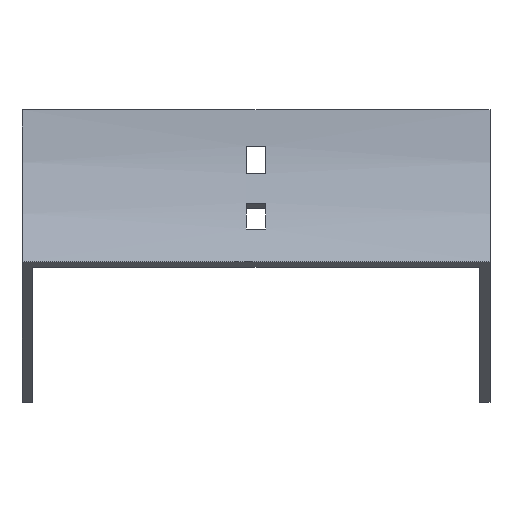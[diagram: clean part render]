
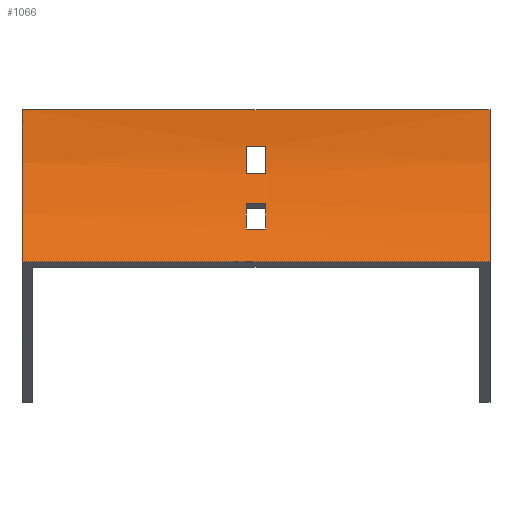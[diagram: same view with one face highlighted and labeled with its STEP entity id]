
A CAD part, front view. The second image highlights one B-rep face of the part: STEP entity #1066.
In plain terms, the highlighted cylindrical face has radius 100 mm (diameter 200 mm), a partial arc.
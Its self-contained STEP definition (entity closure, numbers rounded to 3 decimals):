
#50 = CARTESIAN_POINT ( 'NONE',  ( 3.25, -2.23, -21. ) ) ;
#57 = CIRCLE ( 'NONE', #160, 100. ) ;
#62 = DIRECTION ( 'NONE',  ( 1., 0., 0. ) ) ;
#99 = VECTOR ( 'NONE', #1032, 1000. ) ;
#103 = ORIENTED_EDGE ( 'NONE', *, *, #1078, .F. ) ;
#115 = CARTESIAN_POINT ( 'NONE',  ( 77., -4.829, -30.699 ) ) ;
#122 = DIRECTION ( 'NONE',  ( -1., 0., 0. ) ) ;
#149 = CARTESIAN_POINT ( 'NONE',  ( 77., 0., 0. ) ) ;
#160 = AXIS2_PLACEMENT_3D ( 'NONE', #303, #1627, #570 ) ;
#193 = CARTESIAN_POINT ( 'NONE',  ( 77., -0.723, -12. ) ) ;
#197 = DIRECTION ( 'NONE',  ( -1., 0., 0. ) ) ;
#219 = DIRECTION ( 'NONE',  ( -1., 0., 0. ) ) ;
#234 = DIRECTION ( 'NONE',  ( -1., 0., 0. ) ) ;
#285 = CIRCLE ( 'NONE', #1477, 100. ) ;
#303 = CARTESIAN_POINT ( 'NONE',  ( 3.25, -100., 0. ) ) ;
#332 = ORIENTED_EDGE ( 'NONE', *, *, #1461, .T. ) ;
#338 = DIRECTION ( 'NONE',  ( 0., 0., 1. ) ) ;
#354 = DIRECTION ( 'NONE',  ( 0., 0., 1. ) ) ;
#357 = CARTESIAN_POINT ( 'NONE',  ( 77., 0., 0. ) ) ;
#365 = VECTOR ( 'NONE', #563, 1000. ) ;
#375 = CARTESIAN_POINT ( 'NONE',  ( 77., -8.023, -39.246 ) ) ;
#385 = CARTESIAN_POINT ( 'NONE',  ( 3.25, -0.723, -12. ) ) ;
#400 = DIRECTION ( 'NONE',  ( -1., 0., 0. ) ) ;
#426 = CARTESIAN_POINT ( 'NONE',  ( -3.25, -8.023, -39.246 ) ) ;
#456 = CIRCLE ( 'NONE', #996, 100. ) ;
#457 = VERTEX_POINT ( 'NONE', #1044 ) ;
#471 = LINE ( 'NONE', #375, #1195 ) ;
#518 = DIRECTION ( 'NONE',  ( -1., 0., 0. ) ) ;
#526 = CARTESIAN_POINT ( 'NONE',  ( 77., -13.397, -50. ) ) ;
#528 = CIRCLE ( 'NONE', #1148, 100. ) ;
#538 = ORIENTED_EDGE ( 'NONE', *, *, #835, .T. ) ;
#546 = CIRCLE ( 'NONE', #999, 100. ) ;
#562 = EDGE_CURVE ( 'NONE', #985, #1651, #896, .T. ) ;
#563 = DIRECTION ( 'NONE',  ( -1., 0., 0. ) ) ;
#570 = DIRECTION ( 'NONE',  ( 0., 0., 1. ) ) ;
#613 = CARTESIAN_POINT ( 'NONE',  ( 77., -100., 0. ) ) ;
#639 = CARTESIAN_POINT ( 'NONE',  ( 3.25, -100., 0. ) ) ;
#650 = VERTEX_POINT ( 'NONE', #923 ) ;
#664 = ORIENTED_EDGE ( 'NONE', *, *, #1199, .F. ) ;
#687 = EDGE_LOOP ( 'NONE', ( #1101, #664, #955, #1048 ) ) ;
#702 = VECTOR ( 'NONE', #122, 1000. ) ;
#706 = VERTEX_POINT ( 'NONE', #426 ) ;
#710 = EDGE_CURVE ( 'NONE', #890, #1341, #1481, .T. ) ;
#729 = VECTOR ( 'NONE', #936, 1000. ) ;
#767 = EDGE_CURVE ( 'NONE', #1565, #890, #907, .T. ) ;
#773 = DIRECTION ( 'NONE',  ( 0., 0., -1. ) ) ;
#775 = CYLINDRICAL_SURFACE ( 'NONE', #1081, 100. ) ;
#780 = VERTEX_POINT ( 'NONE', #1683 ) ;
#817 = EDGE_CURVE ( 'NONE', #780, #457, #57, .T. ) ;
#820 = EDGE_LOOP ( 'NONE', ( #1231, #332, #538, #1147 ) ) ;
#835 = EDGE_CURVE ( 'NONE', #1541, #1565, #846, .T. ) ;
#841 = CARTESIAN_POINT ( 'NONE',  ( -3.25, -2.23, -21. ) ) ;
#846 = LINE ( 'NONE', #193, #1615 ) ;
#885 = FACE_OUTER_BOUND ( 'NONE', #687, .T. ) ;
#890 = VERTEX_POINT ( 'NONE', #50 ) ;
#896 = LINE ( 'NONE', #149, #702 ) ;
#907 = CIRCLE ( 'NONE', #1183, 100. ) ;
#914 = CARTESIAN_POINT ( 'NONE',  ( -3.25, -0.723, -12. ) ) ;
#923 = CARTESIAN_POINT ( 'NONE',  ( -77., -13.397, -50. ) ) ;
#936 = DIRECTION ( 'NONE',  ( -1., 0., 0. ) ) ;
#944 = DIRECTION ( 'NONE',  ( 0., 0., 1. ) ) ;
#952 = DIRECTION ( 'NONE',  ( 1., 0., 0. ) ) ;
#955 = ORIENTED_EDGE ( 'NONE', *, *, #1139, .F. ) ;
#973 = CARTESIAN_POINT ( 'NONE',  ( 77., -2.23, -21. ) ) ;
#985 = VERTEX_POINT ( 'NONE', #357 ) ;
#996 = AXIS2_PLACEMENT_3D ( 'NONE', #1065, #518, #1571 ) ;
#999 = AXIS2_PLACEMENT_3D ( 'NONE', #1397, #1045, #354 ) ;
#1032 = DIRECTION ( 'NONE',  ( -1., 0., 0. ) ) ;
#1044 = CARTESIAN_POINT ( 'NONE',  ( 3.25, -4.829, -30.699 ) ) ;
#1045 = DIRECTION ( 'NONE',  ( 1., 0., 0. ) ) ;
#1048 = ORIENTED_EDGE ( 'NONE', *, *, #562, .T. ) ;
#1065 = CARTESIAN_POINT ( 'NONE',  ( 77., -100., 0. ) ) ;
#1066 = ADVANCED_FACE ( 'NONE', ( #885, #1677, #1401 ), #775, .F. ) ;
#1075 = CARTESIAN_POINT ( 'NONE',  ( -3.25, -4.829, -30.699 ) ) ;
#1078 = EDGE_CURVE ( 'NONE', #457, #1186, #1562, .T. ) ;
#1081 = AXIS2_PLACEMENT_3D ( 'NONE', #613, #219, #338 ) ;
#1101 = ORIENTED_EDGE ( 'NONE', *, *, #1150, .T. ) ;
#1135 = DIRECTION ( 'NONE',  ( 0., 0., -1. ) ) ;
#1139 = EDGE_CURVE ( 'NONE', #985, #1511, #456, .T. ) ;
#1147 = ORIENTED_EDGE ( 'NONE', *, *, #767, .T. ) ;
#1148 = AXIS2_PLACEMENT_3D ( 'NONE', #1236, #197, #1135 ) ;
#1150 = EDGE_CURVE ( 'NONE', #1651, #650, #285, .T. ) ;
#1183 = AXIS2_PLACEMENT_3D ( 'NONE', #639, #234, #773 ) ;
#1186 = VERTEX_POINT ( 'NONE', #1075 ) ;
#1195 = VECTOR ( 'NONE', #952, 1000. ) ;
#1199 = EDGE_CURVE ( 'NONE', #1511, #650, #1474, .T. ) ;
#1220 = CARTESIAN_POINT ( 'NONE',  ( -77., -100., 0. ) ) ;
#1231 = ORIENTED_EDGE ( 'NONE', *, *, #710, .T. ) ;
#1236 = CARTESIAN_POINT ( 'NONE',  ( -3.25, -100., 0. ) ) ;
#1253 = EDGE_CURVE ( 'NONE', #1186, #706, #528, .T. ) ;
#1281 = ORIENTED_EDGE ( 'NONE', *, *, #1253, .F. ) ;
#1287 = EDGE_LOOP ( 'NONE', ( #1281, #103, #1502, #1299 ) ) ;
#1299 = ORIENTED_EDGE ( 'NONE', *, *, #1521, .F. ) ;
#1341 = VERTEX_POINT ( 'NONE', #841 ) ;
#1390 = CARTESIAN_POINT ( 'NONE',  ( 77., -13.397, -50. ) ) ;
#1397 = CARTESIAN_POINT ( 'NONE',  ( -3.25, -100., 0. ) ) ;
#1401 = FACE_BOUND ( 'NONE', #1287, .T. ) ;
#1461 = EDGE_CURVE ( 'NONE', #1341, #1541, #546, .T. ) ;
#1474 = LINE ( 'NONE', #526, #729 ) ;
#1477 = AXIS2_PLACEMENT_3D ( 'NONE', #1220, #400, #944 ) ;
#1481 = LINE ( 'NONE', #973, #365 ) ;
#1502 = ORIENTED_EDGE ( 'NONE', *, *, #817, .F. ) ;
#1511 = VERTEX_POINT ( 'NONE', #1390 ) ;
#1521 = EDGE_CURVE ( 'NONE', #706, #780, #471, .T. ) ;
#1541 = VERTEX_POINT ( 'NONE', #914 ) ;
#1562 = LINE ( 'NONE', #115, #99 ) ;
#1565 = VERTEX_POINT ( 'NONE', #385 ) ;
#1571 = DIRECTION ( 'NONE',  ( 0., 0., 1. ) ) ;
#1594 = CARTESIAN_POINT ( 'NONE',  ( -77., 0., 0. ) ) ;
#1615 = VECTOR ( 'NONE', #62, 1000. ) ;
#1627 = DIRECTION ( 'NONE',  ( 1., 0., 0. ) ) ;
#1651 = VERTEX_POINT ( 'NONE', #1594 ) ;
#1677 = FACE_BOUND ( 'NONE', #820, .T. ) ;
#1683 = CARTESIAN_POINT ( 'NONE',  ( 3.25, -8.023, -39.246 ) ) ;
